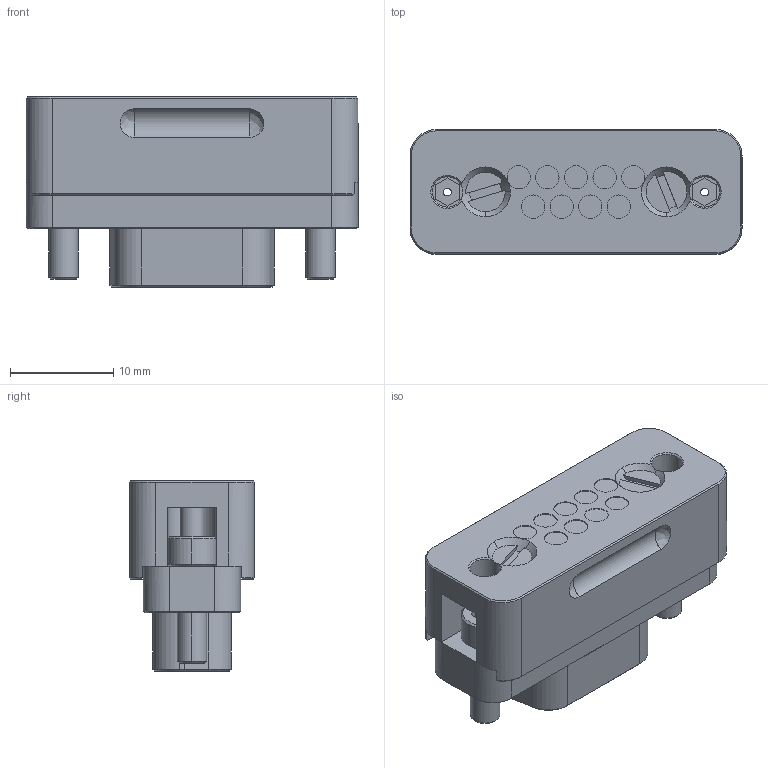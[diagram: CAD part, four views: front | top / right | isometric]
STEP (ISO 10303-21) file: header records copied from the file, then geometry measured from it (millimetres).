
FILE_DESCRIPTION (( 'STEP AP203' ), '1' );
FILE_NAME ('100440.stp', '2019-10-10T17:43:23', ( '' ), ( '' ), 'SwSTEP 2.0', 'SolidWorks 2012', '' );
FILE_SCHEMA (( 'CONFIG_CONTROL_DESIGN' ));
Length unit declared in the file: centimetre
Products named in the file (1): 100440
Bounding box: 32.13 x 12.06 x 18.41 mm (x, y, z)
Volume: 4880.5 mm3; surface area: 2870.2 mm2
Topology: 1 solids, 10 shells, 260 faces, 599 edges, 382 vertices
Faces by surface type: plane 113, cylinder 80, cone 60, bspline 7
Entity records: 7674 total; most frequent: CARTESIAN_POINT 1563, DIRECTION 1338, ORIENTED_EDGE 1190, EDGE_CURVE 595, AXIS2_PLACEMENT_3D 529, VERTEX_POINT 382, EDGE_LOOP 295, VECTOR 280
